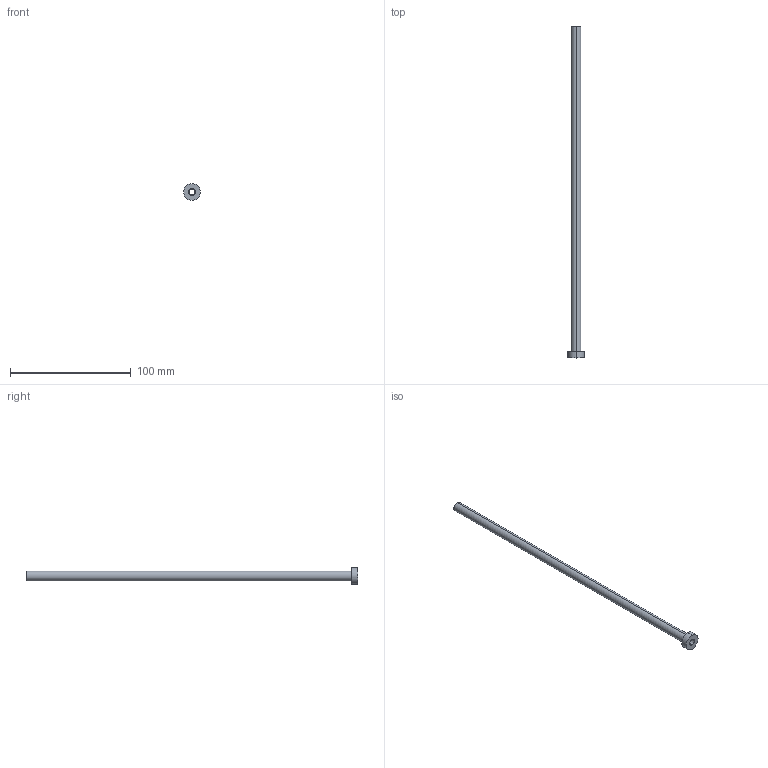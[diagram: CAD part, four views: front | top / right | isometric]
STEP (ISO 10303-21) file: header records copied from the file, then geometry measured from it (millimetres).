
FILE_DESCRIPTION (( 'STEP AP214' ), '1' );
FILE_NAME ('ET-ETN-4,5x275.STEP', '2019-12-16T15:18:11', ( 'August' ), ( '' ), 'SwSTEP 2.0', 'SolidWorks 2018', '' );
FILE_SCHEMA (( 'AUTOMOTIVE_DESIGN' ));
Length unit declared in the file: millimetre
Products named in the file (1): ET-ETN-4,5x275
Bounding box: 14 x 275 x 14 mm (x, y, z)
Volume: 8552.7 mm3; surface area: 11743.5 mm2
Topology: 1 solids, 1 shells, 13 faces, 26 edges, 16 vertices
Faces by surface type: cylinder 8, plane 3, cone 2
Entity records: 382 total; most frequent: DIRECTION 70, CARTESIAN_POINT 56, ORIENTED_EDGE 52, AXIS2_PLACEMENT_3D 30, EDGE_CURVE 26, EDGE_LOOP 16, VERTEX_POINT 16, CIRCLE 16
